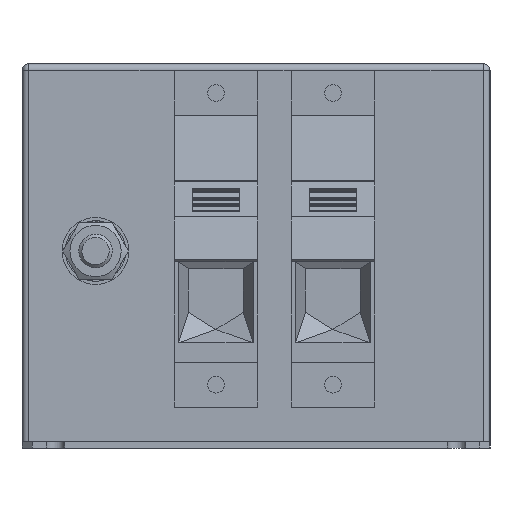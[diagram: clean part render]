
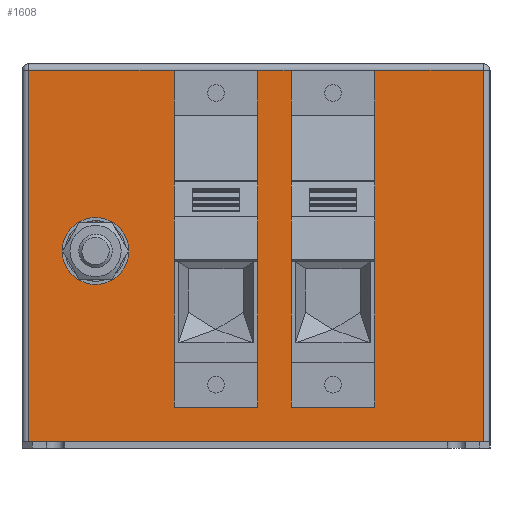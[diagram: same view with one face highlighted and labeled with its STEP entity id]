
A CAD part, left-side view. The second image highlights one B-rep face of the part: STEP entity #1608.
In plain terms, the highlighted planar face has unit normal (-1, 0, 0).
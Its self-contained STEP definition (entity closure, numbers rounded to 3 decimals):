
#1487=CARTESIAN_POINT('',(-110.0,48.,50.75));
#1488=VERTEX_POINT('',#1487);
#1489=CARTESIAN_POINT('',(-110.0,48.,59.0));
#1490=DIRECTION('',(1.0,0.0,0.0));
#1491=DIRECTION('',(0.0,0.0,-1.0));
#1492=AXIS2_PLACEMENT_3D('',#1489,#1490,#1491);
#1493=CIRCLE('',#1492,8.25);
#1494=EDGE_CURVE('',#1488,#1488,#1493,.T.);
#1502=CARTESIAN_POINT('',(-110.0,70.0,0.0));
#1503=DIRECTION('',(-1.0,0.0,0.0));
#1504=DIRECTION('',(0.0,-1.0,0.0));
#1505=AXIS2_PLACEMENT_3D('',#1502,#1503,#1504);
#1506=PLANE('',#1505);
#1507=CARTESIAN_POINT('',(-110.0,-10.5,12.3));
#1508=VERTEX_POINT('',#1507);
#1509=CARTESIAN_POINT('',(-110.0,-10.5,113.0));
#1510=VERTEX_POINT('',#1509);
#1511=CARTESIAN_POINT('',(-110.0,-10.5,12.3));
#1512=DIRECTION('',(0.0,0.0,1.0));
#1513=VECTOR('',#1512,100.7);
#1514=LINE('',#1511,#1513);
#1515=EDGE_CURVE('',#1508,#1510,#1514,.T.);
#1516=ORIENTED_EDGE('',*,*,#1515,.T.);
#1517=CARTESIAN_POINT('',(-110.0,-0.5,113.0));
#1518=VERTEX_POINT('',#1517);
#1519=CARTESIAN_POINT('',(-110.0,-0.5,113.0));
#1520=DIRECTION('',(0.0,-1.0,0.0));
#1521=VECTOR('',#1520,10.);
#1522=LINE('',#1519,#1521);
#1523=EDGE_CURVE('',#1518,#1510,#1522,.T.);
#1524=ORIENTED_EDGE('',*,*,#1523,.F.);
#1525=CARTESIAN_POINT('',(-110.0,-0.5,12.3));
#1526=VERTEX_POINT('',#1525);
#1527=CARTESIAN_POINT('',(-110.0,-0.5,113.0));
#1528=DIRECTION('',(0.0,0.0,-1.0));
#1529=VECTOR('',#1528,100.7);
#1530=LINE('',#1527,#1529);
#1531=EDGE_CURVE('',#1518,#1526,#1530,.T.);
#1532=ORIENTED_EDGE('',*,*,#1531,.T.);
#1533=CARTESIAN_POINT('',(-110.0,24.5,12.3));
#1534=VERTEX_POINT('',#1533);
#1535=CARTESIAN_POINT('',(-110.0,-0.5,12.3));
#1536=DIRECTION('',(0.0,1.0,0.0));
#1537=VECTOR('',#1536,25.0);
#1538=LINE('',#1535,#1537);
#1539=EDGE_CURVE('',#1526,#1534,#1538,.T.);
#1540=ORIENTED_EDGE('',*,*,#1539,.T.);
#1541=CARTESIAN_POINT('',(-110.0,24.5,113.0));
#1542=VERTEX_POINT('',#1541);
#1543=CARTESIAN_POINT('',(-110.0,24.5,12.3));
#1544=DIRECTION('',(0.0,0.0,1.0));
#1545=VECTOR('',#1544,100.7);
#1546=LINE('',#1543,#1545);
#1547=EDGE_CURVE('',#1534,#1542,#1546,.T.);
#1548=ORIENTED_EDGE('',*,*,#1547,.T.);
#1549=CARTESIAN_POINT('',(-110.0,68.0,113.0));
#1550=VERTEX_POINT('',#1549);
#1551=CARTESIAN_POINT('',(-110.0,68.0,113.0));
#1552=DIRECTION('',(0.0,-1.0,0.0));
#1553=VECTOR('',#1552,43.5);
#1554=LINE('',#1551,#1553);
#1555=EDGE_CURVE('',#1550,#1542,#1554,.T.);
#1556=ORIENTED_EDGE('',*,*,#1555,.F.);
#1557=CARTESIAN_POINT('',(-110.0,68.0,2.0));
#1558=VERTEX_POINT('',#1557);
#1559=CARTESIAN_POINT('',(-110.0,68.0,2.0));
#1560=DIRECTION('',(0.0,0.0,1.0));
#1561=VECTOR('',#1560,111.0);
#1562=LINE('',#1559,#1561);
#1563=EDGE_CURVE('',#1558,#1550,#1562,.T.);
#1564=ORIENTED_EDGE('',*,*,#1563,.F.);
#1565=CARTESIAN_POINT('',(-110.0,-68.0,2.0));
#1566=VERTEX_POINT('',#1565);
#1567=CARTESIAN_POINT('',(-110.0,68.0,2.0));
#1568=DIRECTION('',(0.0,-1.0,0.0));
#1569=VECTOR('',#1568,136.0);
#1570=LINE('',#1567,#1569);
#1571=EDGE_CURVE('',#1558,#1566,#1570,.T.);
#1572=ORIENTED_EDGE('',*,*,#1571,.T.);
#1573=CARTESIAN_POINT('',(-110.0,-68.0,113.0));
#1574=VERTEX_POINT('',#1573);
#1575=CARTESIAN_POINT('',(-110.0,-68.0,113.0));
#1576=DIRECTION('',(0.0,0.0,-1.0));
#1577=VECTOR('',#1576,111.0);
#1578=LINE('',#1575,#1577);
#1579=EDGE_CURVE('',#1574,#1566,#1578,.T.);
#1580=ORIENTED_EDGE('',*,*,#1579,.F.);
#1581=CARTESIAN_POINT('',(-110.0,-35.5,113.0));
#1582=VERTEX_POINT('',#1581);
#1583=CARTESIAN_POINT('',(-110.0,-35.5,113.0));
#1584=DIRECTION('',(0.0,-1.0,0.0));
#1585=VECTOR('',#1584,32.5);
#1586=LINE('',#1583,#1585);
#1587=EDGE_CURVE('',#1582,#1574,#1586,.T.);
#1588=ORIENTED_EDGE('',*,*,#1587,.F.);
#1589=CARTESIAN_POINT('',(-110.0,-35.5,12.3));
#1590=VERTEX_POINT('',#1589);
#1591=CARTESIAN_POINT('',(-110.0,-35.5,113.0));
#1592=DIRECTION('',(0.0,0.0,-1.0));
#1593=VECTOR('',#1592,100.7);
#1594=LINE('',#1591,#1593);
#1595=EDGE_CURVE('',#1582,#1590,#1594,.T.);
#1596=ORIENTED_EDGE('',*,*,#1595,.T.);
#1597=CARTESIAN_POINT('',(-110.0,-35.5,12.3));
#1598=DIRECTION('',(0.0,1.0,0.0));
#1599=VECTOR('',#1598,25.);
#1600=LINE('',#1597,#1599);
#1601=EDGE_CURVE('',#1590,#1508,#1600,.T.);
#1602=ORIENTED_EDGE('',*,*,#1601,.T.);
#1603=EDGE_LOOP('',(#1516,#1524,#1532,#1540,#1548,#1556,#1564,#1572,#1580,#1588,#1596,#1602));
#1604=FACE_OUTER_BOUND('',#1603,.T.);
#1605=ORIENTED_EDGE('',*,*,#1494,.T.);
#1606=EDGE_LOOP('',(#1605));
#1607=FACE_BOUND('',#1606,.T.);
#1608=ADVANCED_FACE('',(#1604,#1607),#1506,.T.);
